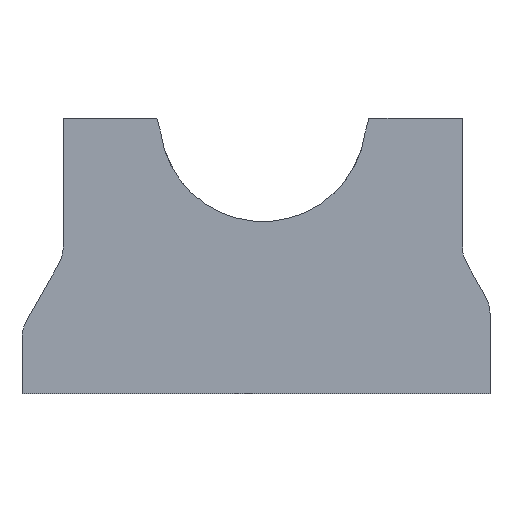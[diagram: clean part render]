
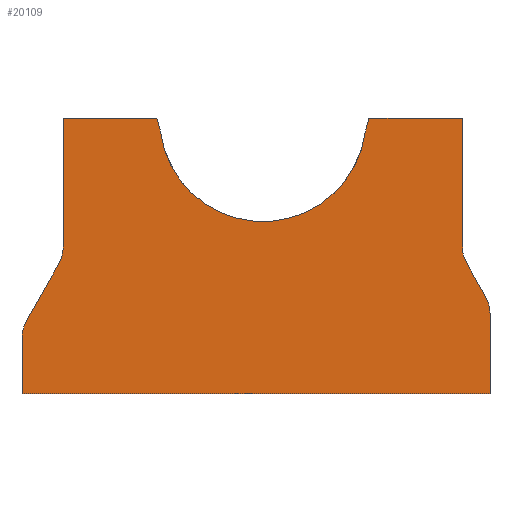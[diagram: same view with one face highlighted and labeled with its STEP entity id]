
A CAD part, left-side view. The second image highlights one B-rep face of the part: STEP entity #20109.
In plain terms, the highlighted planar face has unit normal (-1, 0, 0).
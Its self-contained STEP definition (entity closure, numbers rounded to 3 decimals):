
#5246=CARTESIAN_POINT('Vertex',(-14.,13.866,30.407)) ;
#5249=CARTESIAN_POINT('Axis2P3D Location',(-14.,-1.,32.407)) ;
#5253=CARTESIAN_POINT('Vertex',(-14.,-15.866,30.407)) ;
#5676=CARTESIAN_POINT('Line Origine',(-14.,-16.134,31.407)) ;
#5680=CARTESIAN_POINT('Vertex',(-14.,-16.402,32.407)) ;
#5700=CARTESIAN_POINT('Line Origine',(-14.,-23.201,32.407)) ;
#5704=CARTESIAN_POINT('Vertex',(-14.,-30.,32.407)) ;
#5776=CARTESIAN_POINT('Line Origine',(-14.,-30.,23.071)) ;
#5780=CARTESIAN_POINT('Vertex',(-14.,-30.,13.735)) ;
#5800=CARTESIAN_POINT('Axis2P3D Location',(-14.,-35.,13.735)) ;
#5804=CARTESIAN_POINT('Vertex',(-14.,-30.659,11.254)) ;
#5824=CARTESIAN_POINT('Line Origine',(-14.,-32.,8.907)) ;
#5828=CARTESIAN_POINT('Vertex',(-14.,-33.341,6.56)) ;
#5848=CARTESIAN_POINT('Axis2P3D Location',(-14.,-29.,4.08)) ;
#5852=CARTESIAN_POINT('Vertex',(-14.,-34.,4.08)) ;
#5872=CARTESIAN_POINT('Line Origine',(-14.,-34.,-1.757)) ;
#5876=CARTESIAN_POINT('Vertex',(-14.,-34.,-7.593)) ;
#5896=CARTESIAN_POINT('Line Origine',(-14.,0.,-7.593)) ;
#5900=CARTESIAN_POINT('Vertex',(-14.,34.,-7.593)) ;
#6186=CARTESIAN_POINT('Line Origine',(-14.,34.,-3.507)) ;
#6190=CARTESIAN_POINT('Vertex',(-14.,34.,0.58)) ;
#6210=CARTESIAN_POINT('Axis2P3D Location',(-14.,29.,0.58)) ;
#6214=CARTESIAN_POINT('Vertex',(-14.,33.341,3.06)) ;
#6234=CARTESIAN_POINT('Line Origine',(-14.,31.,7.157)) ;
#6238=CARTESIAN_POINT('Vertex',(-14.,28.659,11.254)) ;
#6258=CARTESIAN_POINT('Axis2P3D Location',(-14.,33.,13.735)) ;
#6262=CARTESIAN_POINT('Vertex',(-14.,28.,13.735)) ;
#6282=CARTESIAN_POINT('Line Origine',(-14.,28.,23.071)) ;
#6286=CARTESIAN_POINT('Vertex',(-14.,28.,32.407)) ;
#6301=CARTESIAN_POINT('Line Origine',(-14.,21.201,32.407)) ;
#6305=CARTESIAN_POINT('Vertex',(-14.,14.402,32.407)) ;
#6377=CARTESIAN_POINT('Line Origine',(-14.,14.134,31.407)) ;
#20086=CARTESIAN_POINT('Axis2P3D Location',(-14.,0.,0.)) ;
#5250=DIRECTION('Axis2P3D Direction',(1.,0.,0.)) ;
#5677=DIRECTION('Vector Direction',(0.,-0.259,0.966)) ;
#5701=DIRECTION('Vector Direction',(0.,1.,0.)) ;
#5777=DIRECTION('Vector Direction',(0.,0.,1.)) ;
#5801=DIRECTION('Axis2P3D Direction',(1.,0.,0.)) ;
#5825=DIRECTION('Vector Direction',(0.,0.496,0.868)) ;
#5849=DIRECTION('Axis2P3D Direction',(1.,0.,0.)) ;
#5873=DIRECTION('Vector Direction',(0.,0.,1.)) ;
#5897=DIRECTION('Vector Direction',(0.,-1.,0.)) ;
#6187=DIRECTION('Vector Direction',(0.,0.,-1.)) ;
#6211=DIRECTION('Axis2P3D Direction',(1.,0.,-0.)) ;
#6235=DIRECTION('Vector Direction',(0.,-0.496,0.868)) ;
#6259=DIRECTION('Axis2P3D Direction',(1.,0.,0.)) ;
#6283=DIRECTION('Vector Direction',(0.,0.,1.)) ;
#6302=DIRECTION('Vector Direction',(0.,-1.,0.)) ;
#6378=DIRECTION('Vector Direction',(0.,-0.259,-0.966)) ;
#20087=DIRECTION('Axis2P3D Direction',(1.,0.,0.)) ;
#20088=DIRECTION('Axis2P3D XDirection',(0.,1.,0.)) ;
#5251=AXIS2_PLACEMENT_3D('Circle Axis2P3D',#5249,#5250,$) ;
#5802=AXIS2_PLACEMENT_3D('Circle Axis2P3D',#5800,#5801,$) ;
#5850=AXIS2_PLACEMENT_3D('Circle Axis2P3D',#5848,#5849,$) ;
#6212=AXIS2_PLACEMENT_3D('Circle Axis2P3D',#6210,#6211,$) ;
#6260=AXIS2_PLACEMENT_3D('Circle Axis2P3D',#6258,#6259,$) ;
#20089=AXIS2_PLACEMENT_3D('Plane Axis2P3D',#20086,#20087,#20088) ;
#20092=ORIENTED_EDGE('',*,*,#6381,.F.) ;
#20093=ORIENTED_EDGE('',*,*,#6307,.F.) ;
#20094=ORIENTED_EDGE('',*,*,#6288,.F.) ;
#20095=ORIENTED_EDGE('',*,*,#6264,.F.) ;
#20096=ORIENTED_EDGE('',*,*,#6240,.F.) ;
#20097=ORIENTED_EDGE('',*,*,#6216,.F.) ;
#20098=ORIENTED_EDGE('',*,*,#6192,.F.) ;
#20099=ORIENTED_EDGE('',*,*,#5902,.F.) ;
#20100=ORIENTED_EDGE('',*,*,#5878,.F.) ;
#20101=ORIENTED_EDGE('',*,*,#5854,.F.) ;
#20102=ORIENTED_EDGE('',*,*,#5830,.F.) ;
#20103=ORIENTED_EDGE('',*,*,#5806,.F.) ;
#20104=ORIENTED_EDGE('',*,*,#5782,.F.) ;
#20105=ORIENTED_EDGE('',*,*,#5706,.F.) ;
#20106=ORIENTED_EDGE('',*,*,#5682,.F.) ;
#20107=ORIENTED_EDGE('',*,*,#5255,.F.) ;
#5678=VECTOR('Line Direction',#5677,1.) ;
#5702=VECTOR('Line Direction',#5701,1.) ;
#5778=VECTOR('Line Direction',#5777,1.) ;
#5826=VECTOR('Line Direction',#5825,1.) ;
#5874=VECTOR('Line Direction',#5873,1.) ;
#5898=VECTOR('Line Direction',#5897,1.) ;
#6188=VECTOR('Line Direction',#6187,1.) ;
#6236=VECTOR('Line Direction',#6235,1.) ;
#6284=VECTOR('Line Direction',#6283,1.) ;
#6303=VECTOR('Line Direction',#6302,1.) ;
#6379=VECTOR('Line Direction',#6378,1.) ;
#20109=ADVANCED_FACE('\X2\96F64EF651E04F554F53\X0\',(#20108),#20090,.F.) ;
#5252=CIRCLE('generated circle',#5251,15.) ;
#5803=CIRCLE('generated circle',#5802,5.) ;
#5851=CIRCLE('generated circle',#5850,5.) ;
#6213=CIRCLE('generated circle',#6212,5.) ;
#6261=CIRCLE('generated circle',#6260,5.) ;
#5255=EDGE_CURVE('',#5247,#5254,#5252,.F.) ;
#5682=EDGE_CURVE('',#5254,#5681,#5679,.T.) ;
#5706=EDGE_CURVE('',#5681,#5705,#5703,.F.) ;
#5782=EDGE_CURVE('',#5705,#5781,#5779,.F.) ;
#5806=EDGE_CURVE('',#5781,#5805,#5803,.F.) ;
#5830=EDGE_CURVE('',#5805,#5829,#5827,.F.) ;
#5854=EDGE_CURVE('',#5829,#5853,#5851,.T.) ;
#5878=EDGE_CURVE('',#5853,#5877,#5875,.F.) ;
#5902=EDGE_CURVE('',#5877,#5901,#5899,.F.) ;
#6192=EDGE_CURVE('',#5901,#6191,#6189,.F.) ;
#6216=EDGE_CURVE('',#6191,#6215,#6213,.T.) ;
#6240=EDGE_CURVE('',#6215,#6239,#6237,.T.) ;
#6264=EDGE_CURVE('',#6239,#6263,#6261,.F.) ;
#6288=EDGE_CURVE('',#6263,#6287,#6285,.T.) ;
#6307=EDGE_CURVE('',#6287,#6306,#6304,.T.) ;
#6381=EDGE_CURVE('',#6306,#5247,#6380,.T.) ;
#20091=EDGE_LOOP('',(#20092,#20093,#20094,#20095,#20096,#20097,#20098,#20099,#20100,#20101,#20102,#20103,#20104,#20105,#20106,#20107)) ;
#20108=FACE_OUTER_BOUND('',#20091,.T.) ;
#5679=LINE('Line',#5676,#5678) ;
#5703=LINE('Line',#5700,#5702) ;
#5779=LINE('Line',#5776,#5778) ;
#5827=LINE('Line',#5824,#5826) ;
#5875=LINE('Line',#5872,#5874) ;
#5899=LINE('Line',#5896,#5898) ;
#6189=LINE('Line',#6186,#6188) ;
#6237=LINE('Line',#6234,#6236) ;
#6285=LINE('Line',#6282,#6284) ;
#6304=LINE('Line',#6301,#6303) ;
#6380=LINE('Line',#6377,#6379) ;
#20090=PLANE('',#20089) ;
#5247=VERTEX_POINT('',#5246) ;
#5254=VERTEX_POINT('',#5253) ;
#5681=VERTEX_POINT('',#5680) ;
#5705=VERTEX_POINT('',#5704) ;
#5781=VERTEX_POINT('',#5780) ;
#5805=VERTEX_POINT('',#5804) ;
#5829=VERTEX_POINT('',#5828) ;
#5853=VERTEX_POINT('',#5852) ;
#5877=VERTEX_POINT('',#5876) ;
#5901=VERTEX_POINT('',#5900) ;
#6191=VERTEX_POINT('',#6190) ;
#6215=VERTEX_POINT('',#6214) ;
#6239=VERTEX_POINT('',#6238) ;
#6263=VERTEX_POINT('',#6262) ;
#6287=VERTEX_POINT('',#6286) ;
#6306=VERTEX_POINT('',#6305) ;
